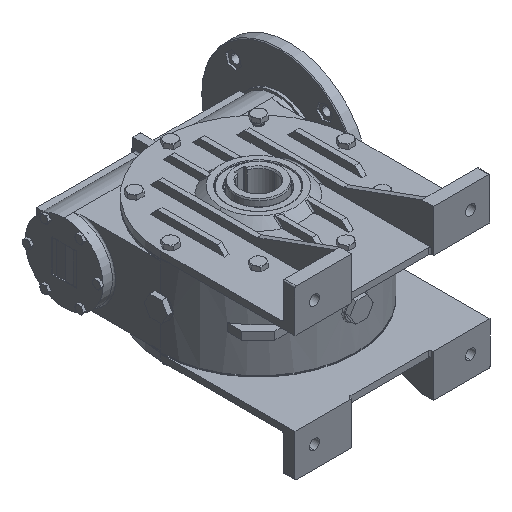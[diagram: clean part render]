
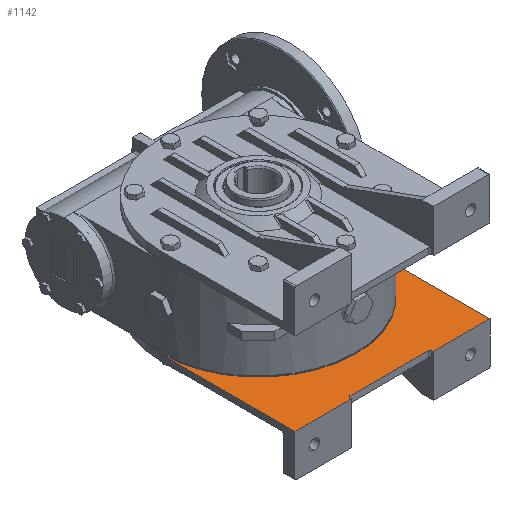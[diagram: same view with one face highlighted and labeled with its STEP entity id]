
A CAD part, isometric view. The second image highlights one B-rep face of the part: STEP entity #1142.
In plain terms, the highlighted planar face has unit normal (0, 0, 1).
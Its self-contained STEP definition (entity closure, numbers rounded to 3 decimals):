
#1051 = EDGE_CURVE ( 'NONE', #1052, #20720, #12958, .T. ) ;
#1052 = VERTEX_POINT ( 'NONE', #12893 ) ;
#1059 = EDGE_CURVE ( 'NONE', #1164, #1166, #12770, .T. ) ;
#1060 = ORIENTED_EDGE ( 'NONE', *, *, #1061, .T. ) ;
#1061 = EDGE_CURVE ( 'NONE', #1166, #1146, #12758, .T. ) ;
#1142 = ADVANCED_FACE ( 'NONE', ( #4324 ), #4897, .T. ) ;
#1143 = EDGE_LOOP ( 'NONE', ( #1144, #1148, #1151, #1154, #1156, #1157, #1158, #1159, #1162, #1165, #1060 ) ) ;
#1144 = ORIENTED_EDGE ( 'NONE', *, *, #1145, .T. ) ;
#1145 = EDGE_CURVE ( 'NONE', #1146, #1147, #4670, .T. ) ;
#1146 = VERTEX_POINT ( 'NONE', #4610 ) ;
#1147 = VERTEX_POINT ( 'NONE', #4606 ) ;
#1148 = ORIENTED_EDGE ( 'NONE', *, *, #1149, .T. ) ;
#1149 = EDGE_CURVE ( 'NONE', #1147, #1150, #4778, .T. ) ;
#1150 = VERTEX_POINT ( 'NONE', #4593 ) ;
#1151 = ORIENTED_EDGE ( 'NONE', *, *, #1152, .T. ) ;
#1152 = EDGE_CURVE ( 'NONE', #1150, #1153, #4585, .T. ) ;
#1153 = VERTEX_POINT ( 'NONE', #4458 ) ;
#1154 = ORIENTED_EDGE ( 'NONE', *, *, #1155, .T. ) ;
#1155 = EDGE_CURVE ( 'NONE', #1153, #1052, #4447, .T. ) ;
#1156 = ORIENTED_EDGE ( 'NONE', *, *, #1051, .T. ) ;
#1157 = ORIENTED_EDGE ( 'NONE', *, *, #20719, .F. ) ;
#1158 = ORIENTED_EDGE ( 'NONE', *, *, #51277, .F. ) ;
#1159 = ORIENTED_EDGE ( 'NONE', *, *, #1160, .T. ) ;
#1160 = EDGE_CURVE ( 'NONE', #51268, #1161, #4369, .T. ) ;
#1161 = VERTEX_POINT ( 'NONE', #4914 ) ;
#1162 = ORIENTED_EDGE ( 'NONE', *, *, #1163, .T. ) ;
#1163 = EDGE_CURVE ( 'NONE', #1161, #1164, #4906, .T. ) ;
#1164 = VERTEX_POINT ( 'NONE', #4815 ) ;
#1165 = ORIENTED_EDGE ( 'NONE', *, *, #1059, .T. ) ;
#1166 = VERTEX_POINT ( 'NONE', #4811 ) ;
#4324 = FACE_OUTER_BOUND ( 'NONE', #1143, .T. ) ;
#4358 = DIRECTION ( 'NONE',  ( 0., -1., 0. ) ) ;
#4360 = VECTOR ( 'NONE', #4358, 1000. ) ;
#4365 = CARTESIAN_POINT ( 'NONE',  ( -125., 0., -53.15 ) ) ;
#4369 = LINE ( 'NONE', #4365, #4360 ) ;
#4375 = DIRECTION ( 'NONE',  ( 1., 0., 0. ) ) ;
#4376 = VECTOR ( 'NONE', #4375, 1000. ) ;
#4378 = CARTESIAN_POINT ( 'NONE',  ( 0., -172., -53.15 ) ) ;
#4447 = LINE ( 'NONE', #4378, #4376 ) ;
#4458 = CARTESIAN_POINT ( 'NONE',  ( 52.5, -172., -53.15 ) ) ;
#4461 = DIRECTION ( 'NONE',  ( 0., -1., 0. ) ) ;
#4462 = VECTOR ( 'NONE', #4461, 1000. ) ;
#4584 = CARTESIAN_POINT ( 'NONE',  ( 52.5, 0., -53.15 ) ) ;
#4585 = LINE ( 'NONE', #4584, #4462 ) ;
#4593 = CARTESIAN_POINT ( 'NONE',  ( 52.5, -170., -53.15 ) ) ;
#4597 = DIRECTION ( 'NONE',  ( 0., -1., 0. ) ) ;
#4606 = CARTESIAN_POINT ( 'NONE',  ( 50.5, -168., -53.15 ) ) ;
#4610 = CARTESIAN_POINT ( 'NONE',  ( -50.5, -168., -53.15 ) ) ;
#4612 = DIRECTION ( 'NONE',  ( 1., 0., 0. ) ) ;
#4614 = VECTOR ( 'NONE', #4612, 1000. ) ;
#4669 = CARTESIAN_POINT ( 'NONE',  ( 0., -168., -53.15 ) ) ;
#4670 = LINE ( 'NONE', #4669, #4614 ) ;
#4677 = DIRECTION ( 'NONE',  ( 0., -1., 0. ) ) ;
#4773 = DIRECTION ( 'NONE',  ( 0., 0., -1. ) ) ;
#4775 = CARTESIAN_POINT ( 'NONE',  ( 50.5, -170., -53.15 ) ) ;
#4777 = AXIS2_PLACEMENT_3D ( 'NONE', #4775, #4773, #4597 ) ;
#4778 = CIRCLE ( 'NONE', #4777, 2. ) ;
#4811 = CARTESIAN_POINT ( 'NONE',  ( -52.5, -170., -53.15 ) ) ;
#4815 = CARTESIAN_POINT ( 'NONE',  ( -52.5, -172., -53.15 ) ) ;
#4872 = DIRECTION ( 'NONE',  ( 0., 0., 1. ) ) ;
#4876 = CARTESIAN_POINT ( 'NONE',  ( 0., 0., -53.15 ) ) ;
#4894 = AXIS2_PLACEMENT_3D ( 'NONE', #4876, #4872, #4677 ) ;
#4897 = PLANE ( 'NONE',  #4894 ) ;
#4901 = DIRECTION ( 'NONE',  ( 1., 0., 0. ) ) ;
#4903 = VECTOR ( 'NONE', #4901, 1000. ) ;
#4905 = CARTESIAN_POINT ( 'NONE',  ( 0., -172., -53.15 ) ) ;
#4906 = LINE ( 'NONE', #4905, #4903 ) ;
#4914 = CARTESIAN_POINT ( 'NONE',  ( -125., -172., -53.15 ) ) ;
#12754 = DIRECTION ( 'NONE',  ( 0., -1., 0. ) ) ;
#12755 = DIRECTION ( 'NONE',  ( 0., 0., -1. ) ) ;
#12756 = CARTESIAN_POINT ( 'NONE',  ( -50.5, -170., -53.15 ) ) ;
#12757 = AXIS2_PLACEMENT_3D ( 'NONE', #12756, #12755, #12754 ) ;
#12758 = CIRCLE ( 'NONE', #12757, 2. ) ;
#12759 = DIRECTION ( 'NONE',  ( 0., 1., 0. ) ) ;
#12760 = VECTOR ( 'NONE', #12759, 1000. ) ;
#12761 = CARTESIAN_POINT ( 'NONE',  ( -52.5, 0., -53.15 ) ) ;
#12770 = LINE ( 'NONE', #12761, #12760 ) ;
#12893 = CARTESIAN_POINT ( 'NONE',  ( 125., -172., -53.15 ) ) ;
#12895 = DIRECTION ( 'NONE',  ( 0., 1., 0. ) ) ;
#12913 = VECTOR ( 'NONE', #12895, 1000. ) ;
#12914 = CARTESIAN_POINT ( 'NONE',  ( 125., -102.116, -53.15 ) ) ;
#12958 = LINE ( 'NONE', #12914, #12913 ) ;
#20716 = VERTEX_POINT ( 'NONE', #71713 ) ;
#20719 = EDGE_CURVE ( 'NONE', #20716, #20720, #71711, .T. ) ;
#20720 = VERTEX_POINT ( 'NONE', #71738 ) ;
#51268 = VERTEX_POINT ( 'NONE', #54808 ) ;
#51277 = EDGE_CURVE ( 'NONE', #51268, #20716, #54787, .T. ) ;
#54781 = DIRECTION ( 'NONE',  ( 0., -1., 0. ) ) ;
#54782 = DIRECTION ( 'NONE',  ( 0., 0., 1. ) ) ;
#54783 = CARTESIAN_POINT ( 'NONE',  ( 0., 0., -53.15 ) ) ;
#54785 = AXIS2_PLACEMENT_3D ( 'NONE', #54783, #54782, #54781 ) ;
#54787 = CIRCLE ( 'NONE', #54785, 125. ) ;
#54808 = CARTESIAN_POINT ( 'NONE',  ( -125., 0., -53.15 ) ) ;
#71706 = DIRECTION ( 'NONE',  ( 0., -1., 0. ) ) ;
#71707 = DIRECTION ( 'NONE',  ( 0., 0., 1. ) ) ;
#71708 = AXIS2_PLACEMENT_3D ( 'NONE', #71710, #71707, #71706 ) ;
#71710 = CARTESIAN_POINT ( 'NONE',  ( 0., 0., -53.15 ) ) ;
#71711 = CIRCLE ( 'NONE', #71708, 125. ) ;
#71713 = CARTESIAN_POINT ( 'NONE',  ( 0., -125., -53.15 ) ) ;
#71738 = CARTESIAN_POINT ( 'NONE',  ( 125., 0., -53.15 ) ) ;
